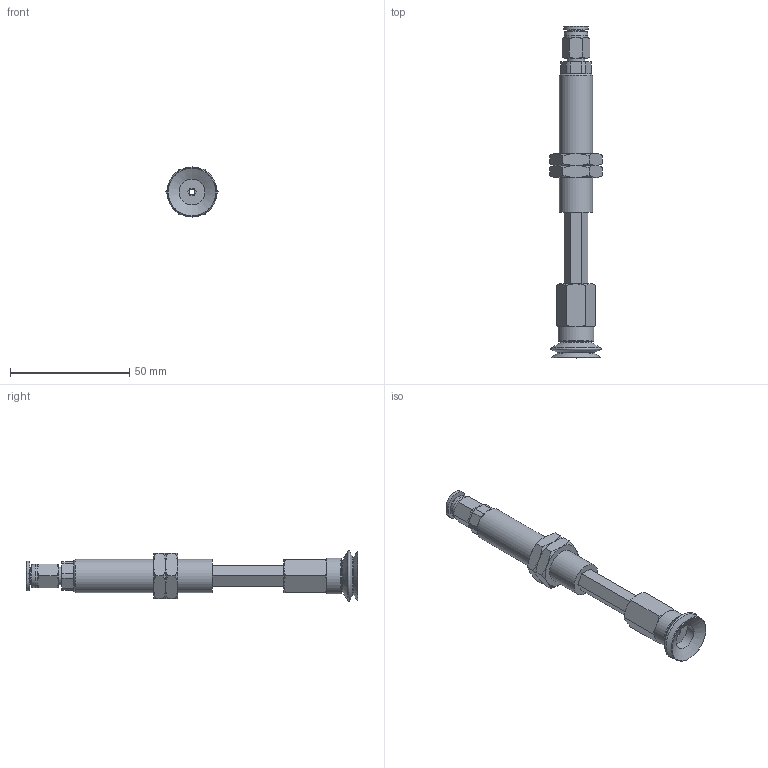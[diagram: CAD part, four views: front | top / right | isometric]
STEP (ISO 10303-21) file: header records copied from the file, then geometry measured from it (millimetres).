
FILE_DESCRIPTION(('STEP AP203'),'1');
FILE_NAME('-O.stp','2025-08-27T06:58:37',(' '),(' '),'Spatial InterOp 3D',' ',' ');
FILE_SCHEMA(('CONFIG_CONTROL_DESIGN'));
Length unit declared in the file: millimetre
Products named in the file (8): BNABPJTH-20-30-※-O; ADAPTER; NAPBTH-20-30-MBODY; Adapter-20-NAPJ; NAPJH-20-30-NUT; NAPJTH-20-30-FBODY; BPJG-20-※; PC-C_06-M5
Assembly tree (8 placements, depth 2):
  BNABPJTH-20-30-※-O
    ADAPTER
    NAPBTH-20-30-MBODY
    Adapter-20-NAPJ
    NAPJH-20-30-NUT  x2
    NAPJTH-20-30-FBODY
    BPJG-20-※
    PC-C_06-M5
Bounding box: 21.94 x 138.98 x 21 mm (x, y, z)
Volume: 17267.6 mm3; surface area: 14729.9 mm2
Topology: 7 solids, 10 shells, 188 faces, 404 edges, 247 vertices
Faces by surface type: plane 79, cone 65, cylinder 28, torus 9, bspline 4, revolution 3
Full cylindrical faces by diameter (mm): 2.5 x1, 3 x2, 4 x2, 4.134 x2, 4.6 x1, 5 x2, 7 x1, 7.4 x1, 8.2 x1, 10 x1, 10.8 x1, 11 x1, 13.188 x2, 14 x1, 15 x1
Entity records: 5036 total; most frequent: CARTESIAN_POINT 1371, DIRECTION 675, ORIENTED_EDGE 600, EDGE_CURVE 302, AXIS2_PLACEMENT_3D 282, EDGE_LOOP 236, VERTEX_POINT 210, FACE_OUTER_BOUND 133
